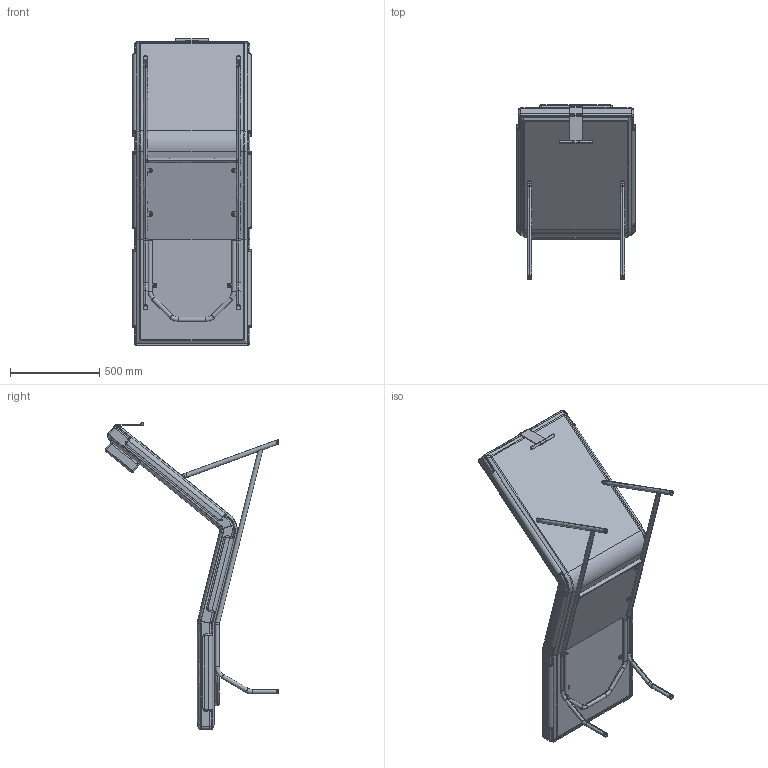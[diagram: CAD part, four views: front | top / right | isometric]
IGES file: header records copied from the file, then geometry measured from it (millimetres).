
Start section: SolidWorks IGES file using analytic representation for surfaces
Global section: file name: C:\Users\furioso\Desktop\FG53900-00-00.IGS; native system: SolidWorks 2020; preprocessor: SolidWorks 2020; author: Furioso; date: 230626.103704; units: millimetre
Bounding box: 664 x 972.43 x 1716.59 mm (x, y, z)
Surface area: 9984652.1 mm2 (no closed solid volume)
Topology: 0 solids, 0 shells, 1870 faces, 17793 edges, 17772 vertices
Faces by surface type: revolution 1120, bspline 750
